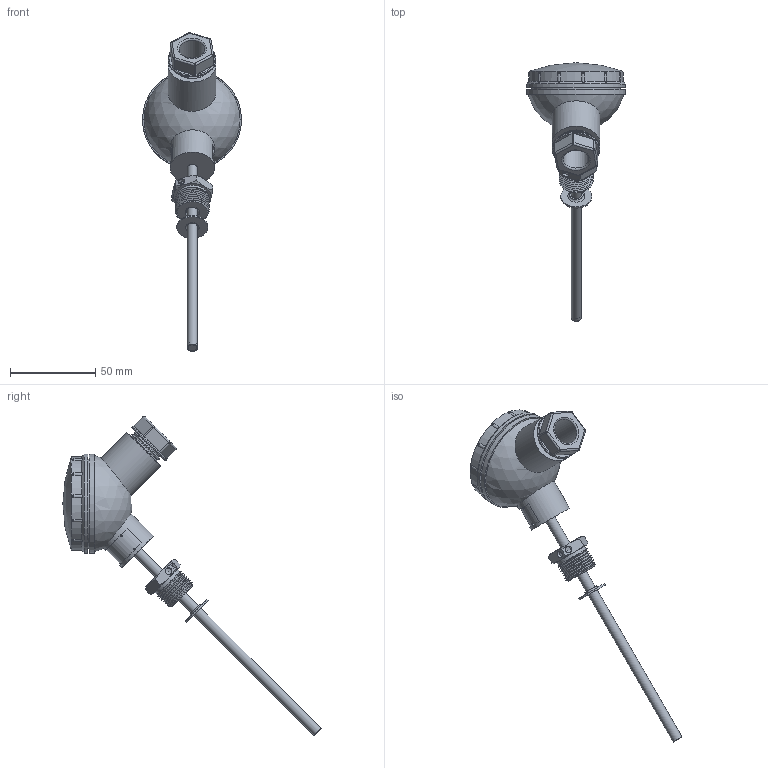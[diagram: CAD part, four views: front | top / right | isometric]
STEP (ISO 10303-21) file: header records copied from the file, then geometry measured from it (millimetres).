
FILE_DESCRIPTION(('STEP AP242'), '1');
FILE_NAME('栖闉罻 3.1.01.02', '', ('UNSPECIFIED'), ('UNSPECIFIED'), 'ASCON STEP Converter 1.6', 'ASCON Math Kernel', '');
FILE_SCHEMA(('AP242_MANAGED_MODEL_BASED_3D_ENGINEERING_MIM_LF { 1 0 10303 442 1 1 4 }'));
Length unit declared in the file: millimetre
Products named in the file (13): Сборка405111-001угл; Шайба 758480-006; Шайба 4; Прокладка 754100-000; Винт 715341-000; Гайка М4; Заглушка 754100-001; Крышка 735214-000; Кожух 731196-000-00; Шайба 758480-001-01; Трубка 723110-004; Гайка 758480-000
Assembly tree (21 placements, depth 3):
  Сборка405111-001угл
    Шайба 758480-006  x4
    Шайба 4  x4
    Прокладка 754100-000
    Винт 715341-000
    Гайка М4  x4
    Заглушка 754100-001
    Крышка 735214-000
    Кожух 731196-000-00
    (unnamed)
      Шайба 758480-001-01
      Трубка 723110-004
      Гайка 758480-000
Bounding box: 58 x 151.22 x 186.71 mm (x, y, z)
Volume: 68901.9 mm3; surface area: 43392.8 mm2
Topology: 22 solids, 22 shells, 557 faces, 1415 edges, 897 vertices
Faces by surface type: cylinder 236, plane 187, bspline 56, cone 54, torus 16, sphere 8
Full cylindrical faces by diameter (mm): 1.6 x1, 4 x7, 4.2 x4, 5 x1, 6 x4, 6.5 x1, 9 x4, 12 x2, 15 x1, 15.4 x1, 18 x1, 18.94 x1, 19.2 x1, 20 x1, 26 x1, 28 x2, 44 x1, 47 x2, 48 x1, 52 x1, 53 x1, 54 x1, 55 x1, 58 x2
Entity records: 90078 total; most frequent: CARTESIAN_POINT 75944, ORIENTED_EDGE 2146, DIRECTION 1654, EDGE_CURVE 1073, VERTEX_POINT 727, AXIS2_PLACEMENT_3D 669, EDGE_LOOP 552, B_SPLINE_CURVE_WITH_KNOTS 484
